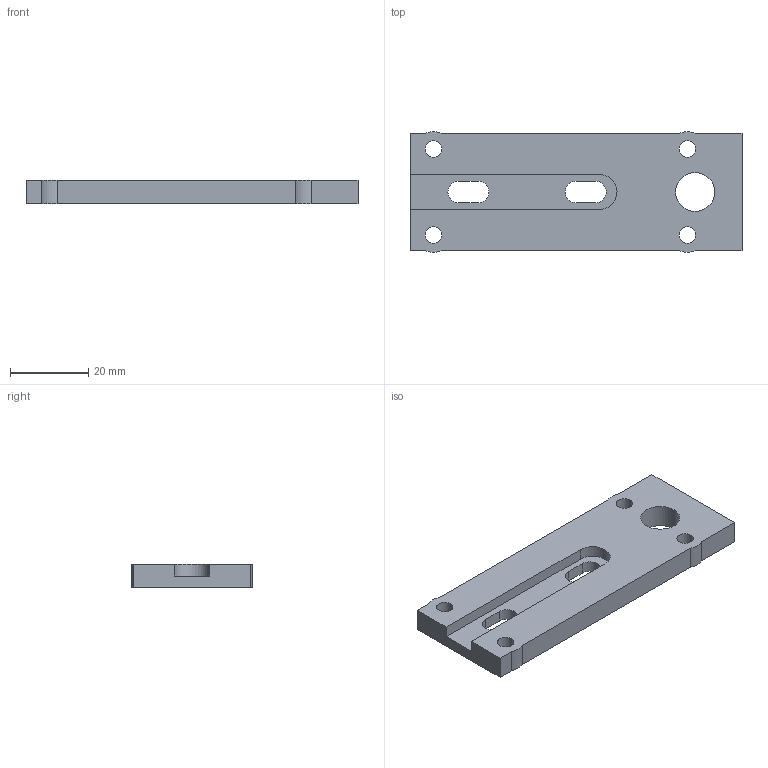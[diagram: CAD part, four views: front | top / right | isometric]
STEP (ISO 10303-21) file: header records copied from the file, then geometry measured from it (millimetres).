
FILE_DESCRIPTION (( 'STEP AP203' ), '1' );
FILE_NAME ('F038101.STEP', '2017-03-22T13:00:23', ( 'Localadmin' ), ( 'Microsoft' ), 'SwSTEP 2.0', 'SolidWorks 2016', '' );
FILE_SCHEMA (( 'CONFIG_CONTROL_DESIGN' ));
Length unit declared in the file: millimetre
Products named in the file (1): F038101
Bounding box: 85 x 30.93 x 6 mm (x, y, z)
Volume: 12536.4 mm3; surface area: 7105.9 mm2
Topology: 1 solids, 1 shells, 66 faces, 180 edges, 120 vertices
Faces by surface type: plane 45, cylinder 21
Entity records: 2191 total; most frequent: CARTESIAN_POINT 367, ORIENTED_EDGE 360, DIRECTION 356, EDGE_CURVE 180, LINE 138, VECTOR 138, VERTEX_POINT 120, AXIS2_PLACEMENT_3D 109
